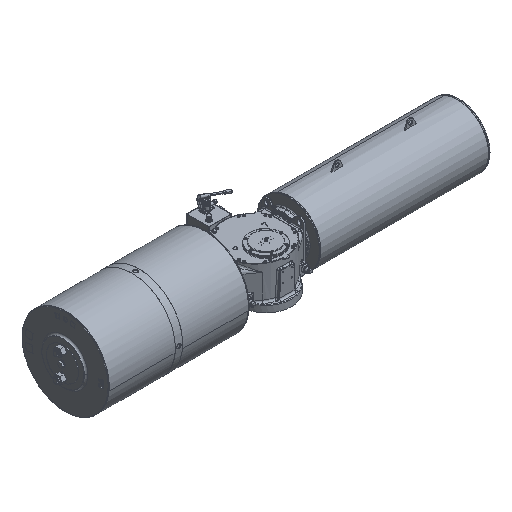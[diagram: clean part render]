
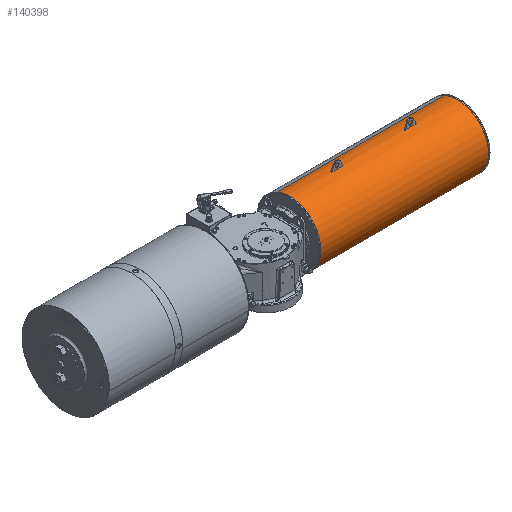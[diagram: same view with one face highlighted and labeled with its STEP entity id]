
A CAD part, isometric view. The second image highlights one B-rep face of the part: STEP entity #140398.
In plain terms, the highlighted cylindrical face has radius 340 mm (diameter 680 mm), a partial arc.
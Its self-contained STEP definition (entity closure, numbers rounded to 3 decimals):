
#1431 = DIRECTION ( 'NONE',  ( 1., 0., 0. ) ) ;
#2323 = CIRCLE ( 'NONE', #21040, 340. ) ;
#2806 = DIRECTION ( 'NONE',  ( 1., 0., 0. ) ) ;
#3563 = DIRECTION ( 'NONE',  ( 0., 1., 0. ) ) ;
#3805 = CIRCLE ( 'NONE', #17925, 340. ) ;
#3957 = ORIENTED_EDGE ( 'NONE', *, *, #106894, .F. ) ;
#5825 = AXIS2_PLACEMENT_3D ( 'NONE', #110675, #8896, #53590 ) ;
#7343 = CARTESIAN_POINT ( 'NONE',  ( 2298., 198., 507.963 ) ) ;
#7401 = DIRECTION ( 'NONE',  ( 1., 0., 0. ) ) ;
#8896 = DIRECTION ( 'NONE',  ( -1., 0., 0. ) ) ;
#9110 = CARTESIAN_POINT ( 'NONE',  ( 918., 198., 507.963 ) ) ;
#9264 = EDGE_CURVE ( 'NONE', #51305, #76369, #2323, .T. ) ;
#13150 = CIRCLE ( 'NONE', #45898, 340. ) ;
#15064 = CARTESIAN_POINT ( 'NONE',  ( 462.615, 66.339, -143.326 ) ) ;
#15561 = CARTESIAN_POINT ( 'NONE',  ( 1718., 198., 507.963 ) ) ;
#16967 = VERTEX_POINT ( 'NONE', #9110 ) ;
#16982 = AXIS2_PLACEMENT_3D ( 'NONE', #102429, #2806, #70216 ) ;
#17762 = CARTESIAN_POINT ( 'NONE',  ( 918., 208., 507.963 ) ) ;
#17925 = AXIS2_PLACEMENT_3D ( 'NONE', #89101, #133697, #134415 ) ;
#17963 = ORIENTED_EDGE ( 'NONE', *, *, #87770, .F. ) ;
#20702 = DIRECTION ( 'NONE',  ( -1., 0., 0. ) ) ;
#21040 = AXIS2_PLACEMENT_3D ( 'NONE', #140642, #7401, #64524 ) ;
#23129 = CIRCLE ( 'NONE', #41858, 340. ) ;
#24660 = LINE ( 'NONE', #69367, #52757 ) ;
#26005 = ORIENTED_EDGE ( 'NONE', *, *, #27458, .F. ) ;
#26292 = DIRECTION ( 'NONE',  ( 1., 0., 0. ) ) ;
#26507 = VERTEX_POINT ( 'NONE', #143052 ) ;
#26787 = CIRCLE ( 'NONE', #134303, 340. ) ;
#26996 = CIRCLE ( 'NONE', #66852, 340. ) ;
#27335 = DIRECTION ( 'NONE',  ( -1., 0., 0. ) ) ;
#27458 = EDGE_CURVE ( 'NONE', #26507, #103528, #23129, .T. ) ;
#30330 = ORIENTED_EDGE ( 'NONE', *, *, #109536, .F. ) ;
#31205 = AXIS2_PLACEMENT_3D ( 'NONE', #74412, #77282, #130694 ) ;
#31623 = FACE_OUTER_BOUND ( 'NONE', #68353, .T. ) ;
#32256 = CARTESIAN_POINT ( 'NONE',  ( 2298., 208., 507.963 ) ) ;
#32905 = DIRECTION ( 'NONE',  ( 0., 0., 1. ) ) ;
#35140 = ORIENTED_EDGE ( 'NONE', *, *, #49759, .T. ) ;
#38754 = CARTESIAN_POINT ( 'NONE',  ( 918., 203., 168. ) ) ;
#38828 = VECTOR ( 'NONE', #130413, 1000. ) ;
#41445 = EDGE_CURVE ( 'NONE', #120221, #76369, #64466, .T. ) ;
#41858 = AXIS2_PLACEMENT_3D ( 'NONE', #54161, #100266, #32905 ) ;
#42412 = DIRECTION ( 'NONE',  ( 0., 0., 1. ) ) ;
#45898 = AXIS2_PLACEMENT_3D ( 'NONE', #79002, #98056, #42412 ) ;
#46060 = EDGE_CURVE ( 'NONE', #51275, #16967, #65931, .T. ) ;
#49759 = EDGE_CURVE ( 'NONE', #126325, #80238, #73388, .T. ) ;
#50587 = CARTESIAN_POINT ( 'NONE',  ( 2293.385, 339.661, 479.326 ) ) ;
#51275 = VERTEX_POINT ( 'NONE', #51548 ) ;
#51305 = VERTEX_POINT ( 'NONE', #110777 ) ;
#51415 = CARTESIAN_POINT ( 'NONE',  ( 2298., 198., 507.963 ) ) ;
#51548 = CARTESIAN_POINT ( 'NONE',  ( 918., 203., 508. ) ) ;
#51794 = EDGE_CURVE ( 'NONE', #98773, #72434, #57843, .T. ) ;
#52470 = VERTEX_POINT ( 'NONE', #89862 ) ;
#52757 = VECTOR ( 'NONE', #113998, 1000. ) ;
#52906 = VERTEX_POINT ( 'NONE', #132846 ) ;
#53590 = DIRECTION ( 'NONE',  ( 0., -0.402, -0.916 ) ) ;
#54161 = CARTESIAN_POINT ( 'NONE',  ( 1038., 203., 168. ) ) ;
#54447 = CIRCLE ( 'NONE', #110459, 340. ) ;
#54858 = ORIENTED_EDGE ( 'NONE', *, *, #9264, .F. ) ;
#57843 = LINE ( 'NONE', #32256, #122947 ) ;
#58975 = CARTESIAN_POINT ( 'NONE',  ( 462.615, 339.661, 479.326 ) ) ;
#59462 = ORIENTED_EDGE ( 'NONE', *, *, #51794, .T. ) ;
#59487 = CARTESIAN_POINT ( 'NONE',  ( 2293.385, 66.339, -143.326 ) ) ;
#59746 = VECTOR ( 'NONE', #20702, 1000. ) ;
#60398 = LINE ( 'NONE', #81635, #83570 ) ;
#64466 = LINE ( 'NONE', #7343, #106753 ) ;
#64524 = DIRECTION ( 'NONE',  ( 0., 0., -1. ) ) ;
#65931 = CIRCLE ( 'NONE', #136026, 340. ) ;
#66852 = AXIS2_PLACEMENT_3D ( 'NONE', #135944, #124240, #67204 ) ;
#67204 = DIRECTION ( 'NONE',  ( 0., -1., 0. ) ) ;
#67501 = FACE_BOUND ( 'NONE', #83901, .T. ) ;
#67626 = EDGE_CURVE ( 'NONE', #52906, #51305, #126923, .T. ) ;
#68156 = CARTESIAN_POINT ( 'NONE',  ( 1038., 203., 508. ) ) ;
#68353 = EDGE_LOOP ( 'NONE', ( #134551, #94323, #35140, #85035 ) ) ;
#68648 = DIRECTION ( 'NONE',  ( 0., 0.402, 0.916 ) ) ;
#68767 = CARTESIAN_POINT ( 'NONE',  ( 1838., 208., 507.963 ) ) ;
#69367 = CARTESIAN_POINT ( 'NONE',  ( 2298., 66.339, -143.326 ) ) ;
#70216 = DIRECTION ( 'NONE',  ( 0., 0., -1. ) ) ;
#72434 = VERTEX_POINT ( 'NONE', #109636 ) ;
#73388 = CIRCLE ( 'NONE', #31205, 340. ) ;
#74412 = CARTESIAN_POINT ( 'NONE',  ( 462.615, 203., 168. ) ) ;
#76369 = VERTEX_POINT ( 'NONE', #15561 ) ;
#77282 = DIRECTION ( 'NONE',  ( 1., 0., 0. ) ) ;
#78795 = EDGE_LOOP ( 'NONE', ( #30330, #103563, #54858, #122893, #119256, #17963 ) ) ;
#79002 = CARTESIAN_POINT ( 'NONE',  ( 1038., 203., 168. ) ) ;
#80238 = VERTEX_POINT ( 'NONE', #15064 ) ;
#81635 = CARTESIAN_POINT ( 'NONE',  ( 2298., 208., 507.963 ) ) ;
#81957 = CARTESIAN_POINT ( 'NONE',  ( 1838., 198., 507.963 ) ) ;
#82521 = DIRECTION ( 'NONE',  ( -1., 0., 0. ) ) ;
#83088 = DIRECTION ( 'NONE',  ( -1., 0., 0. ) ) ;
#83570 = VECTOR ( 'NONE', #83088, 1000. ) ;
#83901 = EDGE_LOOP ( 'NONE', ( #84656, #26005, #99502, #143535, #3957, #59462 ) ) ;
#84656 = ORIENTED_EDGE ( 'NONE', *, *, #91604, .F. ) ;
#85035 = ORIENTED_EDGE ( 'NONE', *, *, #131276, .F. ) ;
#87770 = EDGE_CURVE ( 'NONE', #52470, #92368, #26787, .T. ) ;
#89101 = CARTESIAN_POINT ( 'NONE',  ( 918., 203., 168. ) ) ;
#89862 = CARTESIAN_POINT ( 'NONE',  ( 1838., 203., 508. ) ) ;
#91099 = EDGE_CURVE ( 'NONE', #16967, #26507, #142825, .T. ) ;
#91604 = EDGE_CURVE ( 'NONE', #103528, #72434, #13150, .T. ) ;
#92368 = VERTEX_POINT ( 'NONE', #68767 ) ;
#93497 = CARTESIAN_POINT ( 'NONE',  ( 2293.385, 203., 168. ) ) ;
#94323 = ORIENTED_EDGE ( 'NONE', *, *, #108931, .T. ) ;
#96637 = DIRECTION ( 'NONE',  ( 0., -1., 0. ) ) ;
#98056 = DIRECTION ( 'NONE',  ( -1., 0., 0. ) ) ;
#98773 = VERTEX_POINT ( 'NONE', #17762 ) ;
#99502 = ORIENTED_EDGE ( 'NONE', *, *, #91099, .F. ) ;
#100266 = DIRECTION ( 'NONE',  ( -1., 0., 0. ) ) ;
#102429 = CARTESIAN_POINT ( 'NONE',  ( 1718., 203., 168. ) ) ;
#103528 = VERTEX_POINT ( 'NONE', #68156 ) ;
#103563 = ORIENTED_EDGE ( 'NONE', *, *, #41445, .T. ) ;
#106753 = VECTOR ( 'NONE', #27335, 1000. ) ;
#106894 = EDGE_CURVE ( 'NONE', #98773, #51275, #3805, .T. ) ;
#108931 = EDGE_CURVE ( 'NONE', #123537, #126325, #143671, .T. ) ;
#109536 = EDGE_CURVE ( 'NONE', #120221, #52470, #26996, .T. ) ;
#109636 = CARTESIAN_POINT ( 'NONE',  ( 1038., 208., 507.963 ) ) ;
#110459 = AXIS2_PLACEMENT_3D ( 'NONE', #93497, #82521, #68648 ) ;
#110675 = CARTESIAN_POINT ( 'NONE',  ( 2298., 203., 168. ) ) ;
#110777 = CARTESIAN_POINT ( 'NONE',  ( 1718., 203., 508. ) ) ;
#110873 = EDGE_CURVE ( 'NONE', #92368, #52906, #60398, .T. ) ;
#113998 = DIRECTION ( 'NONE',  ( -1., 0., 0. ) ) ;
#119256 = ORIENTED_EDGE ( 'NONE', *, *, #110873, .F. ) ;
#120221 = VERTEX_POINT ( 'NONE', #81957 ) ;
#120722 = CARTESIAN_POINT ( 'NONE',  ( 1838., 203., 168. ) ) ;
#120748 = EDGE_CURVE ( 'NONE', #122548, #123537, #54447, .T. ) ;
#122548 = VERTEX_POINT ( 'NONE', #59487 ) ;
#122893 = ORIENTED_EDGE ( 'NONE', *, *, #67626, .F. ) ;
#122947 = VECTOR ( 'NONE', #1431, 1000. ) ;
#123537 = VERTEX_POINT ( 'NONE', #50587 ) ;
#124240 = DIRECTION ( 'NONE',  ( -1., 0., 0. ) ) ;
#126325 = VERTEX_POINT ( 'NONE', #58975 ) ;
#126923 = CIRCLE ( 'NONE', #16982, 340. ) ;
#129543 = DIRECTION ( 'NONE',  ( -1., 0., 0. ) ) ;
#130413 = DIRECTION ( 'NONE',  ( 1., 0., 0. ) ) ;
#130694 = DIRECTION ( 'NONE',  ( 0., 0.402, 0.916 ) ) ;
#131276 = EDGE_CURVE ( 'NONE', #122548, #80238, #24660, .T. ) ;
#132846 = CARTESIAN_POINT ( 'NONE',  ( 1718., 208., 507.963 ) ) ;
#133697 = DIRECTION ( 'NONE',  ( 1., 0., 0. ) ) ;
#134303 = AXIS2_PLACEMENT_3D ( 'NONE', #120722, #129543, #96637 ) ;
#134415 = DIRECTION ( 'NONE',  ( 0., 1., 0. ) ) ;
#134551 = ORIENTED_EDGE ( 'NONE', *, *, #120748, .T. ) ;
#135944 = CARTESIAN_POINT ( 'NONE',  ( 1838., 203., 168. ) ) ;
#136026 = AXIS2_PLACEMENT_3D ( 'NONE', #38754, #26292, #3563 ) ;
#140398 = ADVANCED_FACE ( 'NONE', ( #143578, #67501, #31623 ), #144293, .T. ) ;
#140642 = CARTESIAN_POINT ( 'NONE',  ( 1718., 203., 168. ) ) ;
#142231 = CARTESIAN_POINT ( 'NONE',  ( 2298., 339.661, 479.326 ) ) ;
#142825 = LINE ( 'NONE', #51415, #38828 ) ;
#143052 = CARTESIAN_POINT ( 'NONE',  ( 1038., 198., 507.963 ) ) ;
#143535 = ORIENTED_EDGE ( 'NONE', *, *, #46060, .F. ) ;
#143578 = FACE_BOUND ( 'NONE', #78795, .T. ) ;
#143671 = LINE ( 'NONE', #142231, #59746 ) ;
#144293 = CYLINDRICAL_SURFACE ( 'NONE', #5825, 340. ) ;
